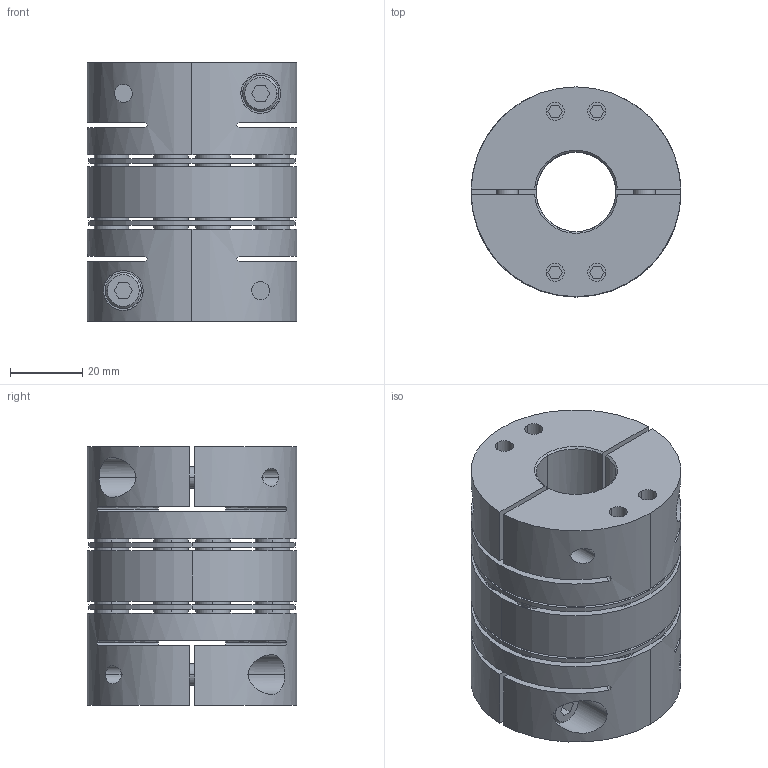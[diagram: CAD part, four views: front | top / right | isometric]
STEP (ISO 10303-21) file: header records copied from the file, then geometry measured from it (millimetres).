
FILE_DESCRIPTION((''),'2;1');
FILE_NAME('TAD-58C-22×22.stp','2022-11-13T22:05:29',(''),(''),'AutoCAD STEP 2000i','AutoCAD 2000i',', , ');
FILE_SCHEMA(('CONFIG_CONTROL_DESIGN'));
Length unit declared in the file: millimetre
Products named in the file (8): TAD-58C-22×22; 忣兜1; TA58C-22-2; CAP-M6×20; TA58C-22; TA58C-12-2; TA58C-12; TAS-58C-ITA
Assembly tree (10 placements, depth 3):
  TAD-58C-22×22
    忣兜1
    TA58C-22-2
      CAP-M6×20
    TA58C-22
      CAP-M6×20
    TA58C-12-2
      CAP-M6×20
    TA58C-12
      CAP-M6×20
    TAS-58C-ITA
Bounding box: 58 x 58 x 71.5 mm (x, y, z)
Volume: 131557 mm3; surface area: 54880.6 mm2
Topology: 1 solids, 5 shells, 568 faces, 1370 edges, 954 vertices
Faces by surface type: plane 252, cylinder 228, cone 72, bspline 16
Entity records: 18721 total; most frequent: CARTESIAN_POINT 4821, DIRECTION 3022, ORIENTED_EDGE 2640, EDGE_CURVE 1320, AXIS2_PLACEMENT_3D 1145, VERTEX_POINT 860, VECTOR 732, LINE 732
